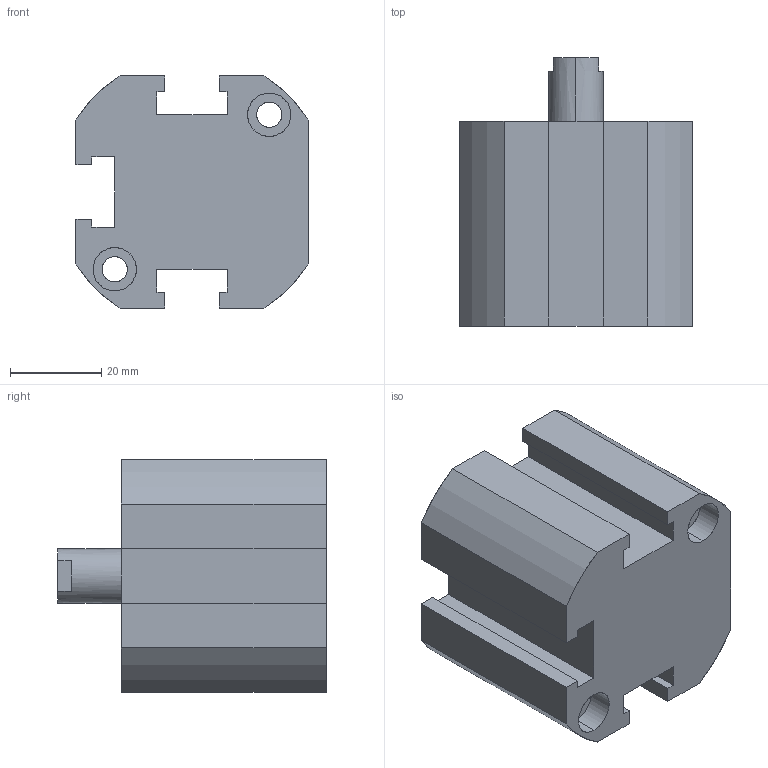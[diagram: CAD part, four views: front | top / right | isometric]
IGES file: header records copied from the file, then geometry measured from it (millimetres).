
Start section: SolidWorks IGES file using analytic representation for surfaces
Global section: file name: C:\Users\Toshiba\Desktop\XG#0-32D-10.IGS; native system: SolidWorks 2014; preprocessor: SolidWorks 2014; author: Toshiba; date: 160524.093655; units: millimetre
Bounding box: 51 x 59 x 51 mm (x, y, z)
Surface area: 18690.8 mm2 (no closed solid volume)
Topology: 0 solids, 0 shells, 91 faces, 1382 edges, 1378 vertices
Faces by surface type: revolution 46, bspline 45
